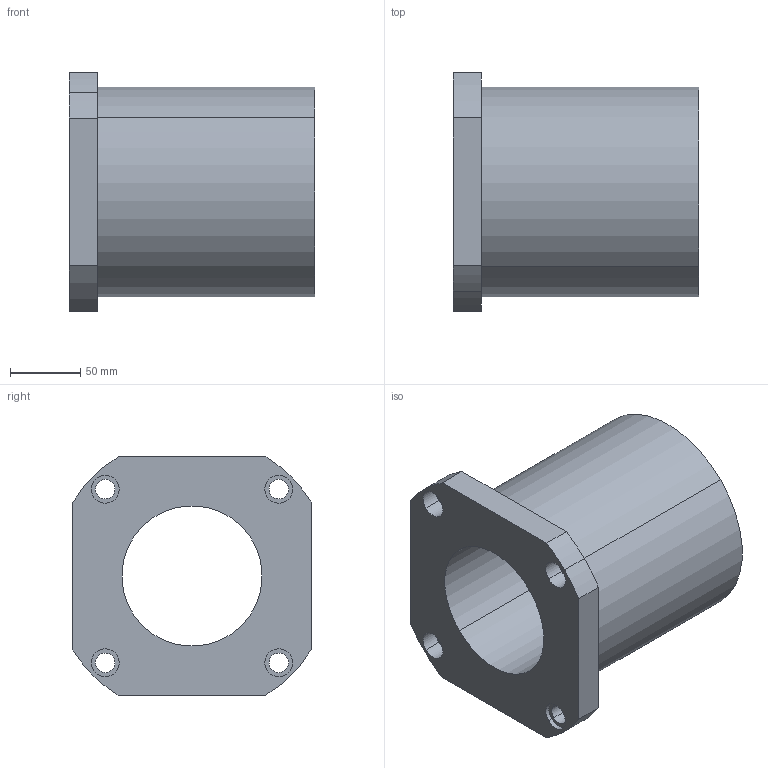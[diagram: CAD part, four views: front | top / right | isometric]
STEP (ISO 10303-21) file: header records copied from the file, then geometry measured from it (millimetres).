
FILE_DESCRIPTION (( 'STEP AP214' ), '1' );
FILE_NAME ('2.7058 Lineaarilaakeri LMK100UU.STEP', '2024-06-24T12:37:48', ( '' ), ( '' ), 'SwSTEP 2.0', 'SolidWorks 2024', '' );
FILE_SCHEMA (( 'AUTOMOTIVE_DESIGN' ));
Length unit declared in the file: millimetre
Products named in the file (1): 2.7058 Lineaarilaakeri LMK100UU
Bounding box: 175 x 170 x 170 mm (x, y, z)
Volume: 1888202.8 mm3; surface area: 181784.3 mm2
Topology: 1 solids, 1 shells, 37 faces, 90 edges, 60 vertices
Faces by surface type: cylinder 26, plane 11
Entity records: 1159 total; most frequent: DIRECTION 218, CARTESIAN_POINT 188, ORIENTED_EDGE 180, AXIS2_PLACEMENT_3D 90, EDGE_CURVE 90, VERTEX_POINT 60, EDGE_LOOP 52, CIRCLE 52
